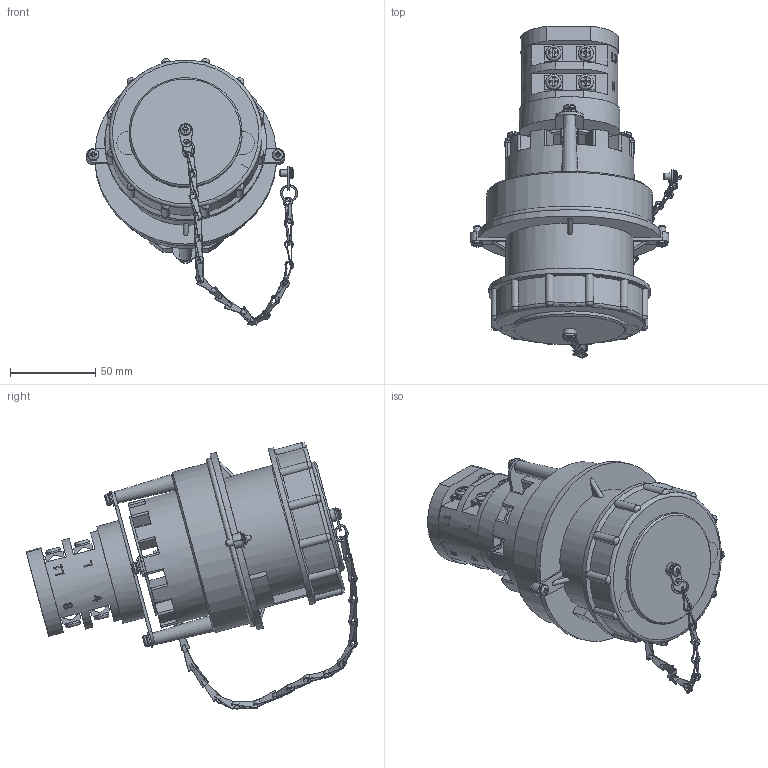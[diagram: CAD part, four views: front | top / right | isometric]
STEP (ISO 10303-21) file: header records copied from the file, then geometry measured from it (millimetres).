
FILE_DESCRIPTION((''),'2;1');
FILE_NAME('C:\Users\L.A.Ronzhin\Desktop\Публикации\РГВК-16-250-4.stp','2020-07-17T16:19:43',('L.A.Ronzhin'),(''),'Autodesk Inventor 2012','Autodesk Inventor 2012','');
FILE_SCHEMA(('AUTOMOTIVE_DESIGN { 1 0 10303 214 1 1 1 1 }'));
Length unit declared in the file: millimetre
Products named in the file (1): РГВК-16-250-4
Bounding box: 124.03 x 195.04 x 156.88 mm (x, y, z)
Surface area: 153820.9 mm2 (no closed solid volume)
Topology: 0 solids, 105 shells, 680 faces, 2744 edges, 2081 vertices
Faces by surface type: plane 380, cylinder 231, torus 29, cone 21, bspline 19
Full cylindrical faces by diameter (mm): 3 x2, 3.242 x9, 3.9 x3, 4 x2, 6.85 x4, 7.5 x1, 9 x12, 50 x2, 59 x1, 66.5 x1, 76 x1, 87 x1, 95 x1, 97.5 x1
Entity records: 43996 total; most frequent: CARTESIAN_POINT 21000, DIRECTION 4587, ORIENTED_EDGE 3839, EDGE_CURVE 2643, VERTEX_POINT 2054, AXIS2_PLACEMENT_3D 1576, VECTOR 1435, LINE 1435
